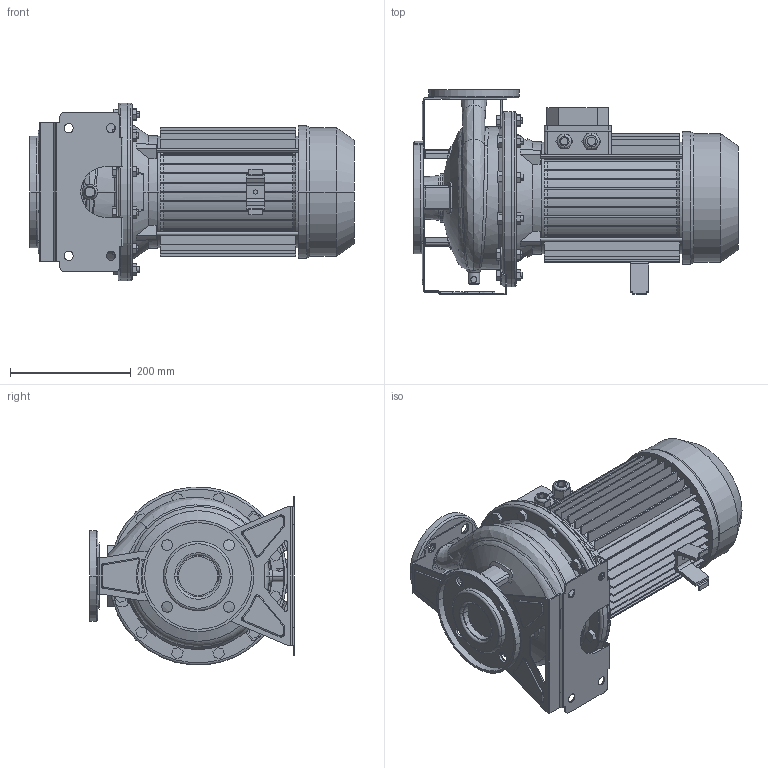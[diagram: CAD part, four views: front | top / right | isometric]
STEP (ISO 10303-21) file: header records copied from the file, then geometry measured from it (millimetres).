
FILE_DESCRIPTION((''),'2;1');
FILE_NAME('3M_40-200_5_5_IE2-IE3_ASM','2016-03-30T',('rosa'),('"Ebara Pumps Europe +39.444.706811"'),'PRO/ENGINEER BY PARAMETRIC TECHNOLOGY CORPORATION, 2012130','PRO/ENGINEER BY PARAMETRIC TECHNOLOGY CORPORATION, 2012130','');
FILE_SCHEMA(('AUTOMOTIVE_DESIGN { 1 0 10303 214 1 1 1 1 }'));
Length unit declared in the file: millimetre
Products named in the file (11): CORPO_40-200_AF0; ASP_40-200; FLANGIA_DIN_65; MAND_40-200; FLANGIA_DIN_40; BASE_3M_40-200; CORPO_SALDATO_40-200_ASM; SUPPORTO_3M_230_112; MEC_112X160_180_IE2; SOSTEGNO_72008; 3M_40-200_5_5_IE2-IE3_ASM
Assembly tree (10 placements, depth 3):
  3M_40-200_5_5_IE2-IE3_ASM
    CORPO_SALDATO_40-200_ASM
      CORPO_40-200_AF0
      ASP_40-200
      FLANGIA_DIN_65
      MAND_40-200
      FLANGIA_DIN_40
      BASE_3M_40-200
    SUPPORTO_3M_230_112
    MEC_112X160_180_IE2
    SOSTEGNO_72008
Bounding box: 539 x 340 x 295.13 mm (x, y, z)
Volume: 12068603.2 mm3; surface area: 1504002.6 mm2
Topology: 12 solids, 12 shells, 1148 faces, 2907 edges, 1860 vertices
Faces by surface type: plane 613, cylinder 337, cone 96, torus 62, bspline 34, sphere 6
Entity records: 48767 total; most frequent: CARTESIAN_POINT 9710, DIRECTION 5962, ORIENTED_EDGE 5814, PRESENTATION_STYLE_ASSIGNMENT 2919, STYLED_ITEM 2919, CURVE_STYLE 2907, EDGE_CURVE 2907, AXIS2_PLACEMENT_3D 2169
